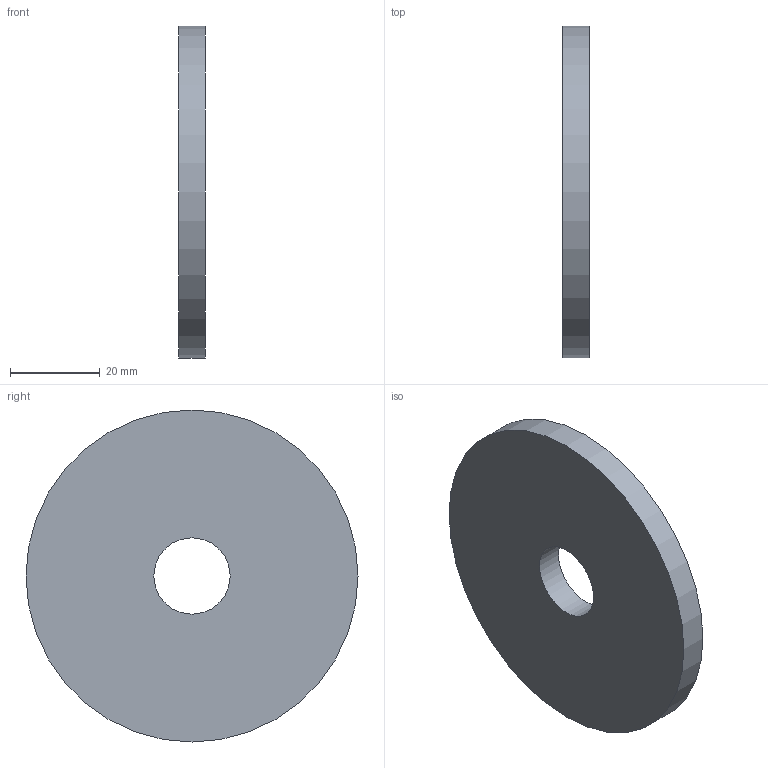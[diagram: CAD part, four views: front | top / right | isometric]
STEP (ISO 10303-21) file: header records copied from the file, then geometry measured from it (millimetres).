
FILE_DESCRIPTION(('Open CASCADE Model'),'2;1');
FILE_NAME('Open CASCADE Shape Model','2026-09-19T12:55:25',('Author'),( 'Open CASCADE'),'Open CASCADE STEP processor 7.9','Open CASCADE 7.9' ,'Unknown');
FILE_SCHEMA(('AUTOMOTIVE_DESIGN { 1 0 10303 214 1 1 1 1 }'));
Length unit declared in the file: millimetre
Products named in the file (1): Open CASCADE STEP translator 7.9 468
Bounding box: 6 x 74 x 74 mm (x, y, z)
Volume: 24443.2 mm3; surface area: 9863 mm2
Topology: 1 solids, 1 shells, 4 faces, 6 edges, 4 vertices
Faces by surface type: cylinder 2, plane 2
Full cylindrical faces by diameter (mm): 17 x1, 74 x1
Entity records: 186 total; most frequent: DIRECTION 32, CARTESIAN_POINT 27, ORIENTED_EDGE 12, PCURVE 12, DEFINITIONAL_REPRESENTATION 12, LINE 10, VECTOR 10, AXIS2_PLACEMENT_3D 9
